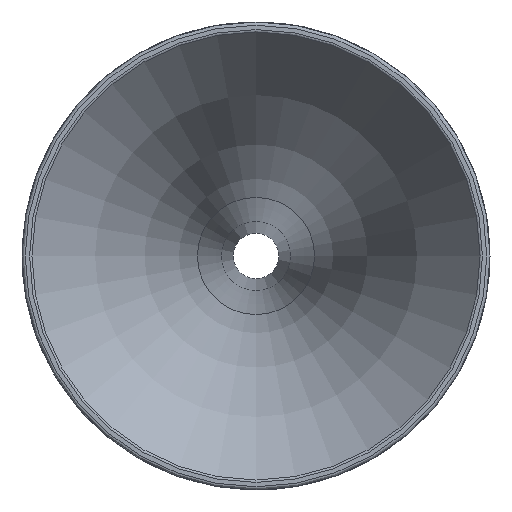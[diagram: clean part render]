
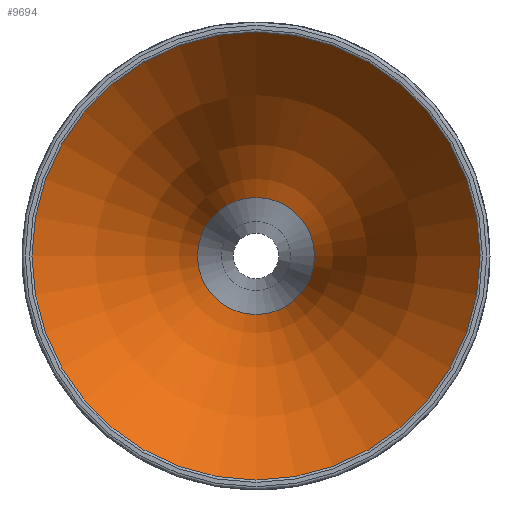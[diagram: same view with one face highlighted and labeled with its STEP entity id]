
A CAD part, front view. The second image highlights one B-rep face of the part: STEP entity #9694.
In plain terms, the highlighted toroidal (fillet/blend) face has major radius 328.615 mm and minor radius 301.625 mm.
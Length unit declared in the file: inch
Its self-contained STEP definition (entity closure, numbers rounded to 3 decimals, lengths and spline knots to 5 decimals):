
#110=TOROIDAL_SURFACE('',#10342,12.93761,11.875);
#2106=FACE_OUTER_BOUND('',#2687,.T.);
#2687=EDGE_LOOP('',(#8762,#8763,#8764,#8765));
#2906=CIRCLE('',#10185,4.30824);
#2993=CIRCLE('',#10340,1.125);
#2995=CIRCLE('',#10343,11.875);
#4385=VERTEX_POINT('',#21989);
#4486=VERTEX_POINT('',#23422);
#5726=EDGE_CURVE('',#4385,#4385,#2906,.T.);
#5922=EDGE_CURVE('',#4486,#4486,#2993,.T.);
#5924=EDGE_CURVE('',#4385,#4486,#2995,.T.);
#8762=ORIENTED_EDGE('',*,*,#5726,.F.);
#8763=ORIENTED_EDGE('',*,*,#5924,.T.);
#8764=ORIENTED_EDGE('',*,*,#5922,.T.);
#8765=ORIENTED_EDGE('',*,*,#5924,.F.);
#9694=ADVANCED_FACE('',(#2106),#110,.T.);
#10185=AXIS2_PLACEMENT_3D('',#21991,#11730,#11731);
#10340=AXIS2_PLACEMENT_3D('',#23423,#12098,#12099);
#10342=AXIS2_PLACEMENT_3D('',#23425,#12102,#12103);
#10343=AXIS2_PLACEMENT_3D('',#23426,#12104,#12105);
#11730=DIRECTION('center_axis',(0.,1.,0.));
#11731=DIRECTION('ref_axis',(0.,0.,-1.));
#12098=DIRECTION('center_axis',(0.,1.,0.));
#12099=DIRECTION('ref_axis',(1.,0.,0.));
#12102=DIRECTION('center_axis',(0.,1.,0.));
#12103=DIRECTION('ref_axis',(0.,0.,1.));
#12104=DIRECTION('center_axis',(-1.,0.,0.));
#12105=DIRECTION('ref_axis',(0.,0.,-1.));
#21989=CARTESIAN_POINT('',(0.,-18.44919,-4.30824));
#21991=CARTESIAN_POINT('Origin',(0.,-18.44919,0.));
#23422=CARTESIAN_POINT('',(0.,-11.5071,-1.125));
#23423=CARTESIAN_POINT('Origin',(0.,-11.5071,0.));
#23425=CARTESIAN_POINT('Origin',(0.,-10.29138,0.));
#23426=CARTESIAN_POINT('Origin',(0.,-10.29138,
-12.93761));
